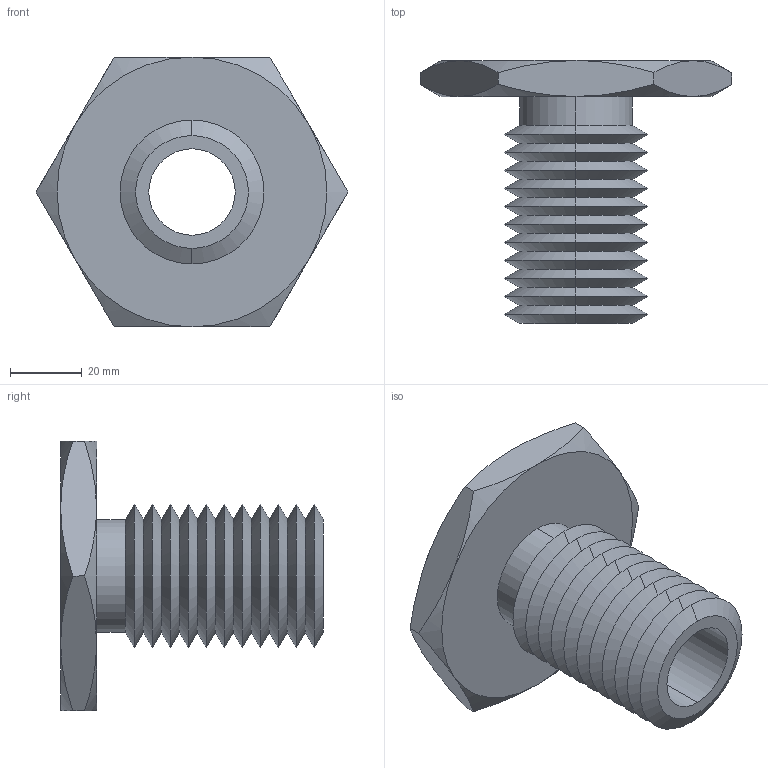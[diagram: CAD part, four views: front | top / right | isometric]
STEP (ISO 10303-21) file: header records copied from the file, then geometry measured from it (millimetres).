
FILE_DESCRIPTION (( 'STEP AP203' ), '1' );
FILE_NAME ('63302.W0042_M24x3.step', '2013-12-08T11:14:03', ( 'User' ), ( '' ), 'SwSTEP 2.0', 'SolidWorks 2009', '' );
FILE_SCHEMA (( 'CONFIG_CONTROL_DESIGN' ));
Length unit declared in the file: millimetre
Products named in the file (1): 63302.W0042_M24x3
Bounding box: 86.6 x 73 x 75 mm (x, y, z)
Volume: 75807.8 mm3; surface area: 29477 mm2
Topology: 1 solids, 1 shells, 71 faces, 146 edges, 78 vertices
Faces by surface type: cone 58, plane 9, cylinder 4
Entity records: 2039 total; most frequent: CARTESIAN_POINT 480, DIRECTION 332, ORIENTED_EDGE 292, EDGE_CURVE 146, AXIS2_PLACEMENT_3D 138, VERTEX_POINT 78, EDGE_LOOP 74, ADVANCED_FACE 71
